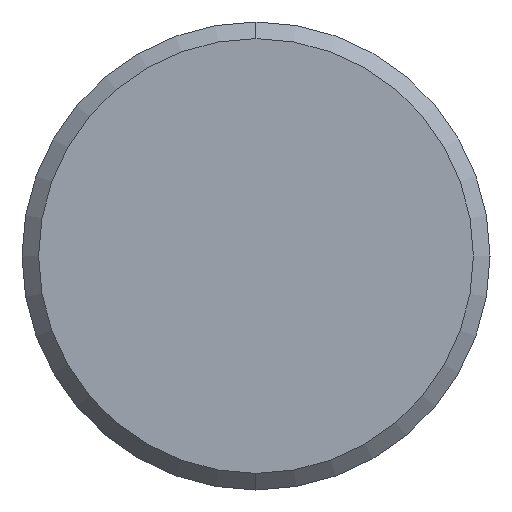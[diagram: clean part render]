
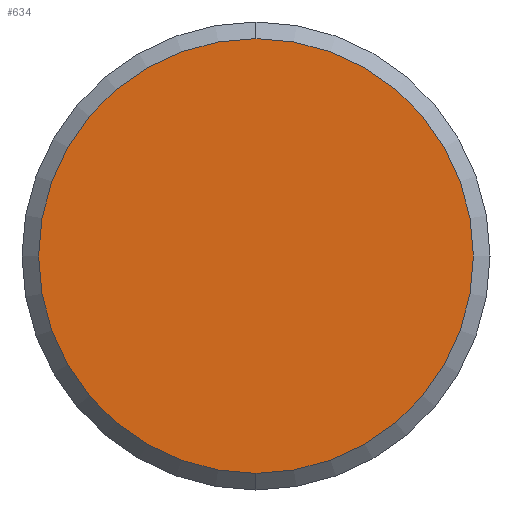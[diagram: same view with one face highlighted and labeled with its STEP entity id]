
A CAD part, left-side view. The second image highlights one B-rep face of the part: STEP entity #634.
In plain terms, the highlighted planar face has unit normal (-1, 0, 0).
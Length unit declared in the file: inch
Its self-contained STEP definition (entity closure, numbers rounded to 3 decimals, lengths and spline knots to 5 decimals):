
#22 = CIRCLE ( 'NONE', #435, 0.8175 ) ;
#49 = CIRCLE ( 'NONE', #432, 0.8175 ) ;
#124 = VERTEX_POINT ( 'NONE', #148 ) ;
#131 = VERTEX_POINT ( 'NONE', #142 ) ;
#142 = CARTESIAN_POINT ( 'NONE',  ( -3.60959, 0.08942, 0.8175 ) ) ;
#148 = CARTESIAN_POINT ( 'NONE',  ( -3.60959, 0.08942, -0.8175 ) ) ;
#222 = CARTESIAN_POINT ( 'NONE',  ( -3.60959, 0.08942, 0. ) ) ;
#223 = DIRECTION ( 'NONE',  ( -1., 0., 0. ) ) ;
#224 = DIRECTION ( 'NONE',  ( 0., 0., -1. ) ) ;
#282 = EDGE_LOOP ( 'NONE', ( #333, #330 ) ) ;
#330 = ORIENTED_EDGE ( 'NONE', *, *, #425, .T. ) ;
#333 = ORIENTED_EDGE ( 'NONE', *, *, #456, .T. ) ;
#378 = AXIS2_PLACEMENT_3D ( 'NONE', #723, #738, #743 ) ;
#425 = EDGE_CURVE ( 'NONE', #131, #124, #49, .T. ) ;
#432 = AXIS2_PLACEMENT_3D ( 'NONE', #222, #223, #224 ) ;
#435 = AXIS2_PLACEMENT_3D ( 'NONE', #587, #586, #584 ) ;
#456 = EDGE_CURVE ( 'NONE', #124, #131, #22, .T. ) ;
#584 = DIRECTION ( 'NONE',  ( 0., 0., -1. ) ) ;
#586 = DIRECTION ( 'NONE',  ( -1., 0., 0. ) ) ;
#587 = CARTESIAN_POINT ( 'NONE',  ( -3.60959, 0.08942, 0. ) ) ;
#634 = ADVANCED_FACE ( 'NONE', ( #762 ), #726, .T. ) ;
#723 = CARTESIAN_POINT ( 'NONE',  ( -3.60959, -0.29627, 0.56489 ) ) ;
#726 = PLANE ( 'NONE',  #378 ) ;
#738 = DIRECTION ( 'NONE',  ( -1., 0., 0. ) ) ;
#743 = DIRECTION ( 'NONE',  ( 0., 0., 1. ) ) ;
#762 = FACE_OUTER_BOUND ( 'NONE', #282, .T. ) ;
